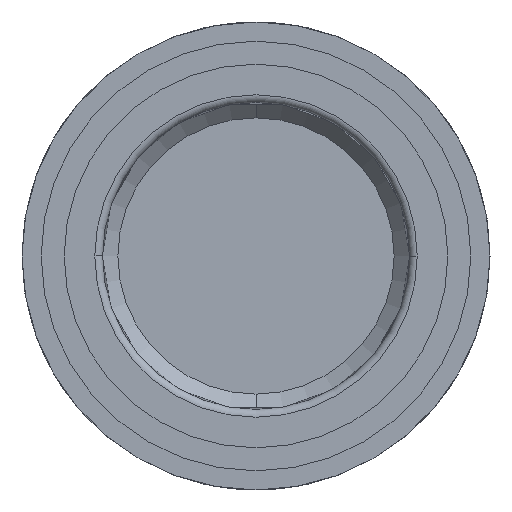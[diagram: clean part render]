
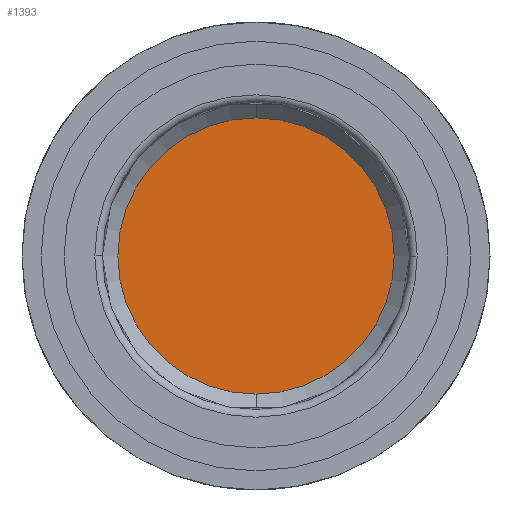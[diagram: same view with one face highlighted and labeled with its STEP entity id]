
A CAD part, front view. The second image highlights one B-rep face of the part: STEP entity #1393.
In plain terms, the highlighted planar face has unit normal (0, -1, 0) as drawn and (0, 0, 1) by its records, which use the part's own axes.
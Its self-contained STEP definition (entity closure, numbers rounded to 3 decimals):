
#32 = CIRCLE ( 'NONE', #1912, 18.5 ) ;
#121 = CARTESIAN_POINT ( 'NONE',  ( -18.5, 0., 1.8 ) ) ;
#130 = PLANE ( 'NONE',  #1075 ) ;
#169 = DIRECTION ( 'NONE',  ( 1., 0., 0. ) ) ;
#318 = AXIS2_PLACEMENT_3D ( 'NONE', #762, #2511, #1007 ) ;
#387 = CARTESIAN_POINT ( 'NONE',  ( 0., 0., 1.8 ) ) ;
#630 = DIRECTION ( 'NONE',  ( 1., 0., 0. ) ) ;
#738 = EDGE_CURVE ( 'NONE', #1186, #1380, #2841, .T. ) ;
#762 = CARTESIAN_POINT ( 'NONE',  ( 0., 0., 1.8 ) ) ;
#1007 = DIRECTION ( 'NONE',  ( 1., 0., 0. ) ) ;
#1075 = AXIS2_PLACEMENT_3D ( 'NONE', #387, #2127, #630 ) ;
#1115 = EDGE_LOOP ( 'NONE', ( #1968, #2509 ) ) ;
#1186 = VERTEX_POINT ( 'NONE', #1917 ) ;
#1380 = VERTEX_POINT ( 'NONE', #121 ) ;
#1393 = ADVANCED_FACE ( 'NONE', ( #2104 ), #130, .T. ) ;
#1511 = EDGE_CURVE ( 'NONE', #1380, #1186, #32, .T. ) ;
#1659 = DIRECTION ( 'NONE',  ( 0., 0., 1. ) ) ;
#1912 = AXIS2_PLACEMENT_3D ( 'NONE', #3165, #1659, #169 ) ;
#1917 = CARTESIAN_POINT ( 'NONE',  ( 18.5, 0., 1.8 ) ) ;
#1968 = ORIENTED_EDGE ( 'NONE', *, *, #1511, .T. ) ;
#2104 = FACE_OUTER_BOUND ( 'NONE', #1115, .T. ) ;
#2127 = DIRECTION ( 'NONE',  ( 0., 0., 1. ) ) ;
#2509 = ORIENTED_EDGE ( 'NONE', *, *, #738, .T. ) ;
#2511 = DIRECTION ( 'NONE',  ( 0., 0., 1. ) ) ;
#2841 = CIRCLE ( 'NONE', #318, 18.5 ) ;
#3165 = CARTESIAN_POINT ( 'NONE',  ( 0., 0., 1.8 ) ) ;
